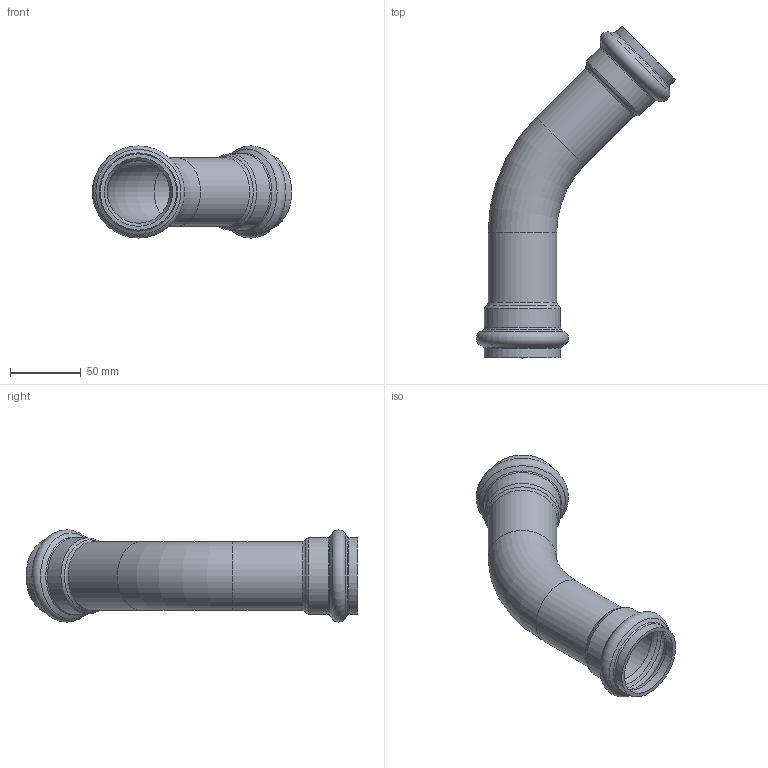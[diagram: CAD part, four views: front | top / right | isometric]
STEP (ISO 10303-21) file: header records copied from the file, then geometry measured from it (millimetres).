
FILE_DESCRIPTION(/* description */ ('VIC 45 DEG ELBOW STYLE P591 (P X P)','CAx-IF Rec.Pracs.---Representation and Presentation of Product Manufacturing Information (PMI)---4.0---2014-10-13'),/* implementation_level */ '2;1');
FILE_NAME(/* name */ 'C:\Users\Vjadhav\AppData\Roaming\Autodesk\ApplicationPlugins\Back Up\Victaulic_SS-Vic-Press-TP 304_Elbow 45 Deg_Style P591 (VP)\Victaulic_SS-Vic-Press-TP 304_Elbow 45 Deg_Style P591 (VP)_1.5 (40).stp',/* time_stamp */ '2020-08-12T16:12:57+06:00',/* author */ ('cgray'),/* organization */ ('Victaulic'),/* preprocessor_version */ 'ST-DEVELOPER v17.2',/* originating_system */ 'Autodesk Inventor 2019',/* authorisation */ '');
FILE_SCHEMA (('AP242_MANAGED_MODEL_BASED_3D_ENGINEERING_MIM_LF { 1 0 10303 442 1 1 4 }'));
Length unit declared in the file: inch
Products named in the file (1): P591-01.5
Bounding box: 140.59 x 234.09 x 64.97 mm (x, y, z)
Volume: 92174.8 mm3; surface area: 79939.5 mm2
Topology: 1 solids, 1 shells, 42 faces, 150 edges, 110 vertices
Faces by surface type: torus 18, cylinder 12, cone 10, plane 2
Full cylindrical faces by diameter (mm): 44.044 x2, 48.26 x6, 53.797 x4
Entity records: 1920 total; most frequent: DIRECTION 390, CARTESIAN_POINT 320, ORIENTED_EDGE 300, AXIS2_PLACEMENT_3D 184, EDGE_CURVE 150, CIRCLE 128, VERTEX_POINT 110, EDGE_LOOP 44
